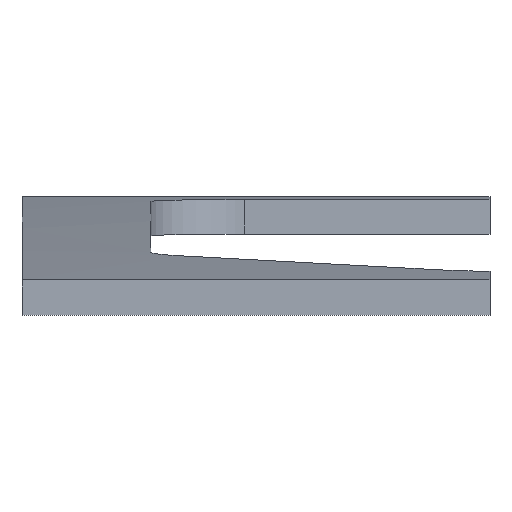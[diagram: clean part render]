
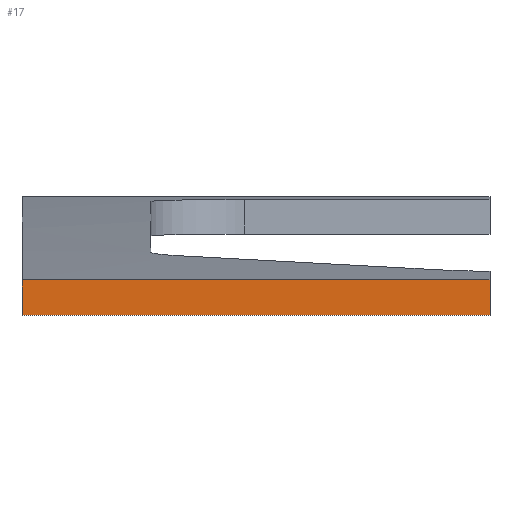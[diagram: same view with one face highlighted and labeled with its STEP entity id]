
A CAD part, top view. The second image highlights one B-rep face of the part: STEP entity #17.
In plain terms, the highlighted planar face has unit normal (0, 0, 1).
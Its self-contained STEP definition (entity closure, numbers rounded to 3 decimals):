
#17 = ADVANCED_FACE('',(#18),#34,.T.);
#18 = FACE_BOUND('',#19,.T.);
#19 = EDGE_LOOP('',(#20,#93,#121,#187));
#20 = ORIENTED_EDGE('',*,*,#21,.F.);
#21 = EDGE_CURVE('',#22,#24,#26,.T.);
#22 = VERTEX_POINT('',#23);
#23 = CARTESIAN_POINT('',(70.,178.456,418.));
#24 = VERTEX_POINT('',#25);
#25 = CARTESIAN_POINT('',(110.,178.456,418.));
#26 = SURFACE_CURVE('',#27,(#33,#47),.PCURVE_S1.);
#27 = B_SPLINE_CURVE_WITH_KNOTS('',4,(#28,#29,#30,#31,#32),
  .UNSPECIFIED.,.F.,.F.,(5,5),(0.,1.),.PIECEWISE_BEZIER_KNOTS.);
#28 = CARTESIAN_POINT('',(66.436,178.456,418.));
#29 = CARTESIAN_POINT('',(127.503,178.456,418.));
#30 = CARTESIAN_POINT('',(188.57,178.456,418.));
#31 = CARTESIAN_POINT('',(249.638,178.456,418.));
#32 = CARTESIAN_POINT('',(310.705,178.456,418.));
#33 = PCURVE('',#34,#39);
#34 = PLANE('',#35);
#35 = AXIS2_PLACEMENT_3D('',#36,#37,#38);
#36 = CARTESIAN_POINT('',(-100.,-250.,418.));
#37 = DIRECTION('',(0.,0.,1.));
#38 = DIRECTION('',(1.,0.,-0.));
#39 = DEFINITIONAL_REPRESENTATION('',(#40),#46);
#40 = B_SPLINE_CURVE_WITH_KNOTS('',4,(#41,#42,#43,#44,#45),
  .UNSPECIFIED.,.F.,.F.,(5,5),(0.,1.),.PIECEWISE_BEZIER_KNOTS.);
#41 = CARTESIAN_POINT('',(166.436,428.456));
#42 = CARTESIAN_POINT('',(227.503,428.456));
#43 = CARTESIAN_POINT('',(288.57,428.456));
#44 = CARTESIAN_POINT('',(349.638,428.456));
#45 = CARTESIAN_POINT('',(410.705,428.456));
#46 = ( GEOMETRIC_REPRESENTATION_CONTEXT(2) 
PARAMETRIC_REPRESENTATION_CONTEXT() REPRESENTATION_CONTEXT('2D SPACE',''
  ) );
#47 = PCURVE('',#48,#85);
#48 = B_SPLINE_SURFACE_WITH_KNOTS('',8,3,(
    (#49,#50,#51,#52)
    ,(#53,#54,#55,#56)
    ,(#57,#58,#59,#60)
    ,(#61,#62,#63,#64)
    ,(#65,#66,#67,#68)
    ,(#69,#70,#71,#72)
    ,(#73,#74,#75,#76)
    ,(#77,#78,#79,#80)
    ,(#81,#82,#83,#84
    )),.UNSPECIFIED.,.F.,.F.,.F.,(9,9),(4,4),(4.,5.),(0.,1.),
  .PIECEWISE_BEZIER_KNOTS.);
#49 = CARTESIAN_POINT('',(329.,188.,100.));
#50 = CARTESIAN_POINT('',(333.035,186.258,
    217.091));
#51 = CARTESIAN_POINT('',(326.755,185.546,336.546
    ));
#52 = CARTESIAN_POINT('',(305.,176.,450.));
#53 = CARTESIAN_POINT('',(292.75,188.,100.));
#54 = CARTESIAN_POINT('',(293.885,186.258,
    217.091));
#55 = CARTESIAN_POINT('',(290.565,185.546,336.546
    ));
#56 = CARTESIAN_POINT('',(276.5,176.,450.));
#57 = CARTESIAN_POINT('',(256.5,188.,100.));
#58 = CARTESIAN_POINT('',(254.736,186.258,
    217.091));
#59 = CARTESIAN_POINT('',(254.375,185.546,336.546
    ));
#60 = CARTESIAN_POINT('',(248.,176.,450.));
#61 = CARTESIAN_POINT('',(220.25,188.,100.));
#62 = CARTESIAN_POINT('',(215.586,186.258,
    217.091));
#63 = CARTESIAN_POINT('',(218.185,185.546,336.546)
  );
#64 = CARTESIAN_POINT('',(219.5,176.,450.));
#65 = CARTESIAN_POINT('',(184.,188.,100.));
#66 = CARTESIAN_POINT('',(176.437,186.258,
    217.091));
#67 = CARTESIAN_POINT('',(181.994,185.546,336.546
    ));
#68 = CARTESIAN_POINT('',(191.,176.,450.));
#69 = CARTESIAN_POINT('',(147.75,188.,100.));
#70 = CARTESIAN_POINT('',(137.287,186.258,
    217.091));
#71 = CARTESIAN_POINT('',(145.804,185.546,336.546
    ));
#72 = CARTESIAN_POINT('',(162.5,176.,450.));
#73 = CARTESIAN_POINT('',(111.5,188.,100.));
#74 = CARTESIAN_POINT('',(98.138,186.258,
    217.091));
#75 = CARTESIAN_POINT('',(109.614,185.546,336.546
    ));
#76 = CARTESIAN_POINT('',(134.,176.,450.));
#77 = CARTESIAN_POINT('',(75.25,188.,100.));
#78 = CARTESIAN_POINT('',(58.988,186.258,
    217.091));
#79 = CARTESIAN_POINT('',(73.424,185.546,336.546
    ));
#80 = CARTESIAN_POINT('',(105.5,176.,450.));
#81 = CARTESIAN_POINT('',(39.,188.,100.));
#82 = CARTESIAN_POINT('',(19.839,186.258,
    217.091));
#83 = CARTESIAN_POINT('',(37.234,185.546,336.546)
  );
#84 = CARTESIAN_POINT('',(77.,176.,450.));
#85 = DEFINITIONAL_REPRESENTATION('',(#86),#92);
#86 = B_SPLINE_CURVE_WITH_KNOTS('',4,(#87,#88,#89,#90,#91),
  .UNSPECIFIED.,.F.,.F.,(5,5),(0.,1.),.PIECEWISE_BEZIER_KNOTS.);
#87 = CARTESIAN_POINT('',(5.,0.906));
#88 = CARTESIAN_POINT('',(4.75,0.906));
#89 = CARTESIAN_POINT('',(4.5,0.906));
#90 = CARTESIAN_POINT('',(4.25,0.906));
#91 = CARTESIAN_POINT('',(4.,0.906));
#92 = ( GEOMETRIC_REPRESENTATION_CONTEXT(2) 
PARAMETRIC_REPRESENTATION_CONTEXT() REPRESENTATION_CONTEXT('2D SPACE',''
  ) );
#93 = ORIENTED_EDGE('',*,*,#94,.F.);
#94 = EDGE_CURVE('',#95,#22,#97,.T.);
#95 = VERTEX_POINT('',#96);
#96 = CARTESIAN_POINT('',(70.,175.414,418.));
#97 = SURFACE_CURVE('',#98,(#102,#109),.PCURVE_S1.);
#98 = LINE('',#99,#100);
#99 = CARTESIAN_POINT('',(70.,-250.,418.));
#100 = VECTOR('',#101,1.);
#101 = DIRECTION('',(-0.,1.,0.));
#102 = PCURVE('',#34,#103);
#103 = DEFINITIONAL_REPRESENTATION('',(#104),#108);
#104 = LINE('',#105,#106);
#105 = CARTESIAN_POINT('',(170.,0.));
#106 = VECTOR('',#107,1.);
#107 = DIRECTION('',(0.,1.));
#108 = ( GEOMETRIC_REPRESENTATION_CONTEXT(2) 
PARAMETRIC_REPRESENTATION_CONTEXT() REPRESENTATION_CONTEXT('2D SPACE',''
  ) );
#109 = PCURVE('',#110,#115);
#110 = PLANE('',#111);
#111 = AXIS2_PLACEMENT_3D('',#112,#113,#114);
#112 = CARTESIAN_POINT('',(70.,-250.,0.));
#113 = DIRECTION('',(1.,0.,-0.));
#114 = DIRECTION('',(0.,0.,1.));
#115 = DEFINITIONAL_REPRESENTATION('',(#116),#120);
#116 = LINE('',#117,#118);
#117 = CARTESIAN_POINT('',(418.,0.));
#118 = VECTOR('',#119,1.);
#119 = DIRECTION('',(0.,-1.));
#120 = ( GEOMETRIC_REPRESENTATION_CONTEXT(2) 
PARAMETRIC_REPRESENTATION_CONTEXT() REPRESENTATION_CONTEXT('2D SPACE',''
  ) );
#121 = ORIENTED_EDGE('',*,*,#122,.T.);
#122 = EDGE_CURVE('',#95,#123,#125,.T.);
#123 = VERTEX_POINT('',#124);
#124 = CARTESIAN_POINT('',(110.,175.414,418.));
#125 = SURFACE_CURVE('',#126,(#132,#141),.PCURVE_S1.);
#126 = B_SPLINE_CURVE_WITH_KNOTS('',4,(#127,#128,#129,#130,#131),
  .UNSPECIFIED.,.F.,.F.,(5,5),(0.,1.),.PIECEWISE_BEZIER_KNOTS.);
#127 = CARTESIAN_POINT('',(66.611,175.414,418.));
#128 = CARTESIAN_POINT('',(127.61,175.414,418.));
#129 = CARTESIAN_POINT('',(188.61,175.414,418.));
#130 = CARTESIAN_POINT('',(249.609,175.414,418.));
#131 = CARTESIAN_POINT('',(310.609,175.414,418.));
#132 = PCURVE('',#34,#133);
#133 = DEFINITIONAL_REPRESENTATION('',(#134),#140);
#134 = B_SPLINE_CURVE_WITH_KNOTS('',4,(#135,#136,#137,#138,#139),
  .UNSPECIFIED.,.F.,.F.,(5,5),(0.,1.),.PIECEWISE_BEZIER_KNOTS.);
#135 = CARTESIAN_POINT('',(166.611,425.414));
#136 = CARTESIAN_POINT('',(227.61,425.414));
#137 = CARTESIAN_POINT('',(288.61,425.414));
#138 = CARTESIAN_POINT('',(349.609,425.414));
#139 = CARTESIAN_POINT('',(410.609,425.414));
#140 = ( GEOMETRIC_REPRESENTATION_CONTEXT(2) 
PARAMETRIC_REPRESENTATION_CONTEXT() REPRESENTATION_CONTEXT('2D SPACE',''
  ) );
#141 = PCURVE('',#142,#179);
#142 = B_SPLINE_SURFACE_WITH_KNOTS('',8,3,(
    (#143,#144,#145,#146)
    ,(#147,#148,#149,#150)
    ,(#151,#152,#153,#154)
    ,(#155,#156,#157,#158)
    ,(#159,#160,#161,#162)
    ,(#163,#164,#165,#166)
    ,(#167,#168,#169,#170)
    ,(#171,#172,#173,#174)
    ,(#175,#176,#177,#178
    )),.UNSPECIFIED.,.F.,.F.,.F.,(9,9),(4,4),(4.,5.),(0.,1.),
  .PIECEWISE_BEZIER_KNOTS.);
#143 = CARTESIAN_POINT('',(329.,185.,97.));
#144 = CARTESIAN_POINT('',(332.161,182.923,
    213.778));
#145 = CARTESIAN_POINT('',(328.615,183.321,
    334.206));
#146 = CARTESIAN_POINT('',(305.,173.,447.));
#147 = CARTESIAN_POINT('',(292.75,185.,97.));
#148 = CARTESIAN_POINT('',(293.343,182.923,
    213.778));
#149 = CARTESIAN_POINT('',(291.752,183.321,
    334.206));
#150 = CARTESIAN_POINT('',(276.5,173.,447.));
#151 = CARTESIAN_POINT('',(256.5,185.,97.));
#152 = CARTESIAN_POINT('',(254.525,182.923,
    213.778));
#153 = CARTESIAN_POINT('',(254.889,183.321,
    334.206));
#154 = CARTESIAN_POINT('',(248.,173.,447.));
#155 = CARTESIAN_POINT('',(220.25,185.,97.));
#156 = CARTESIAN_POINT('',(215.707,182.923,
    213.778));
#157 = CARTESIAN_POINT('',(218.027,183.321,
    334.206));
#158 = CARTESIAN_POINT('',(219.5,173.,447.));
#159 = CARTESIAN_POINT('',(184.,185.,97.));
#160 = CARTESIAN_POINT('',(176.889,182.923,
    213.778));
#161 = CARTESIAN_POINT('',(181.164,183.321,
    334.206));
#162 = CARTESIAN_POINT('',(191.,173.,447.));
#163 = CARTESIAN_POINT('',(147.75,185.,97.));
#164 = CARTESIAN_POINT('',(138.071,182.923,
    213.778));
#165 = CARTESIAN_POINT('',(144.302,183.321,
    334.206));
#166 = CARTESIAN_POINT('',(162.5,173.,447.));
#167 = CARTESIAN_POINT('',(111.5,185.,97.));
#168 = CARTESIAN_POINT('',(99.253,182.923,
    213.778));
#169 = CARTESIAN_POINT('',(107.439,183.321,
    334.206));
#170 = CARTESIAN_POINT('',(134.,173.,447.));
#171 = CARTESIAN_POINT('',(75.25,185.,97.));
#172 = CARTESIAN_POINT('',(60.435,182.923,
    213.778));
#173 = CARTESIAN_POINT('',(70.576,183.321,
    334.206));
#174 = CARTESIAN_POINT('',(105.5,173.,447.));
#175 = CARTESIAN_POINT('',(39.,185.,97.));
#176 = CARTESIAN_POINT('',(21.617,182.923,213.778
    ));
#177 = CARTESIAN_POINT('',(33.714,183.321,
    334.206));
#178 = CARTESIAN_POINT('',(77.,173.,447.));
#179 = DEFINITIONAL_REPRESENTATION('',(#180),#186);
#180 = B_SPLINE_CURVE_WITH_KNOTS('',4,(#181,#182,#183,#184,#185),
  .UNSPECIFIED.,.F.,.F.,(5,5),(0.,1.),.PIECEWISE_BEZIER_KNOTS.);
#181 = CARTESIAN_POINT('',(5.,0.915));
#182 = CARTESIAN_POINT('',(4.75,0.915));
#183 = CARTESIAN_POINT('',(4.5,0.915));
#184 = CARTESIAN_POINT('',(4.25,0.915));
#185 = CARTESIAN_POINT('',(4.,0.915));
#186 = ( GEOMETRIC_REPRESENTATION_CONTEXT(2) 
PARAMETRIC_REPRESENTATION_CONTEXT() REPRESENTATION_CONTEXT('2D SPACE',''
  ) );
#187 = ORIENTED_EDGE('',*,*,#188,.T.);
#188 = EDGE_CURVE('',#123,#24,#189,.T.);
#189 = SURFACE_CURVE('',#190,(#194,#201),.PCURVE_S1.);
#190 = LINE('',#191,#192);
#191 = CARTESIAN_POINT('',(110.,-250.,418.));
#192 = VECTOR('',#193,1.);
#193 = DIRECTION('',(-0.,1.,0.));
#194 = PCURVE('',#34,#195);
#195 = DEFINITIONAL_REPRESENTATION('',(#196),#200);
#196 = LINE('',#197,#198);
#197 = CARTESIAN_POINT('',(210.,0.));
#198 = VECTOR('',#199,1.);
#199 = DIRECTION('',(0.,1.));
#200 = ( GEOMETRIC_REPRESENTATION_CONTEXT(2) 
PARAMETRIC_REPRESENTATION_CONTEXT() REPRESENTATION_CONTEXT('2D SPACE',''
  ) );
#201 = PCURVE('',#202,#207);
#202 = PLANE('',#203);
#203 = AXIS2_PLACEMENT_3D('',#204,#205,#206);
#204 = CARTESIAN_POINT('',(110.,-250.,235.));
#205 = DIRECTION('',(1.,0.,-0.));
#206 = DIRECTION('',(0.,0.,1.));
#207 = DEFINITIONAL_REPRESENTATION('',(#208),#212);
#208 = LINE('',#209,#210);
#209 = CARTESIAN_POINT('',(183.,0.));
#210 = VECTOR('',#211,1.);
#211 = DIRECTION('',(0.,-1.));
#212 = ( GEOMETRIC_REPRESENTATION_CONTEXT(2) 
PARAMETRIC_REPRESENTATION_CONTEXT() REPRESENTATION_CONTEXT('2D SPACE',''
  ) );
